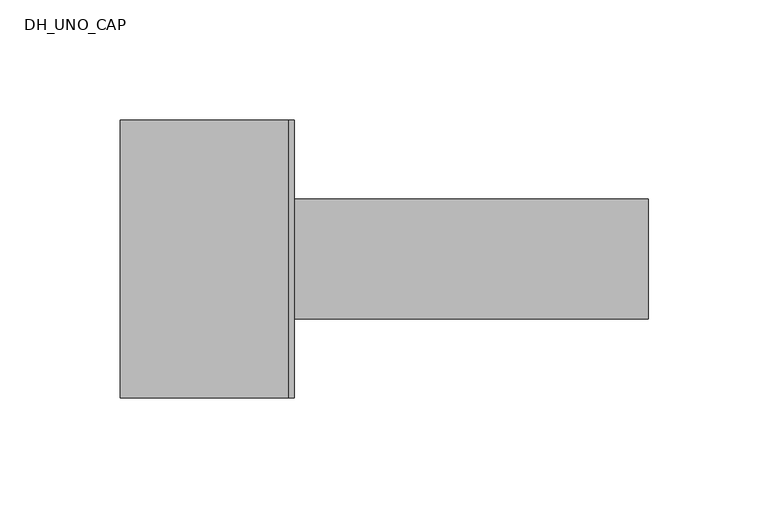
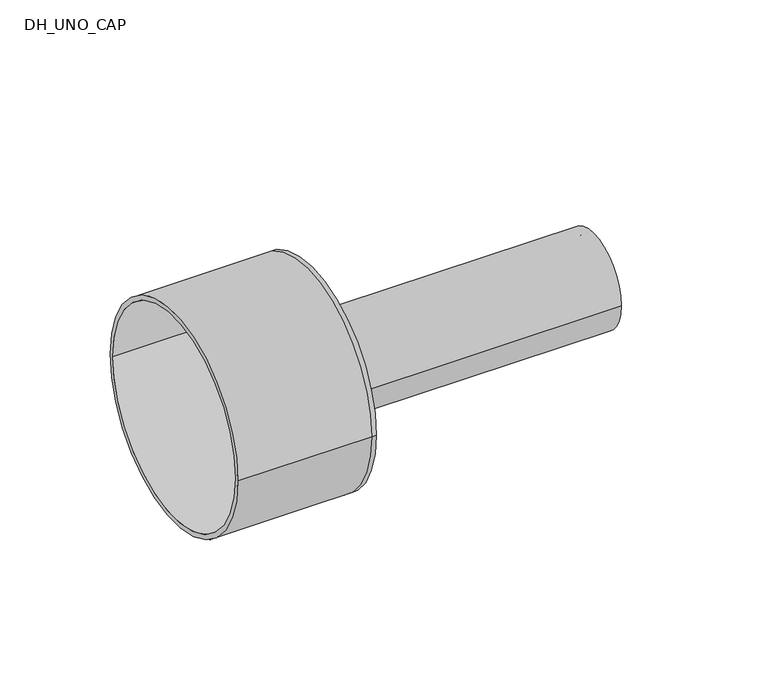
"""IFC4 building model written with IfcOpenShell, lengths in millimetres: pipe fitting geometry, DH_UNO_CAP : RAUTHERMEX UNO 11 Heating - Solid Cap."""

from ifc_helpers import new_model, si_unit, point, frame, origin, origin_2d, place, context, project, spatial, polyline, circle_curve, trimmed, segment, composite_curve, outline, extrude, source, transform, mapped, element, save
from ifc_brep_helpers import plane_surface, cylinder_surface, revolved_surface, advanced_brep


def dh_uno_cap_e8f4ea1d(model_context):
    return source(origin(), model_context, "Body", "SolidModel", [
        extrude(outline(composite_curve([segment(trimmed(circle_curve(origin_2d(), 25.0), [point((-25.0, 0.0))], [point((25.0, 0.0))], False, "CARTESIAN"), True, "CONTINUOUS"), segment(trimmed(circle_curve(origin_2d(), 25.0), [point((25.0, 0.0))], [point((-25.0, 0.0))], False, "CARTESIAN"), True, "CONTINUOUS")], self_intersect=False), holes=[composite_curve([segment(trimmed(circle_curve(origin_2d(), 20.4), [point((-20.4, 0.0))], [point((20.4, 0.0))], True, "CARTESIAN"), True, "CONTINUOUS"), segment(trimmed(circle_curve(origin_2d(), 20.4), [point((20.4, 0.0))], [point((-20.4, 0.0))], True, "CARTESIAN"), True, "CONTINUOUS")], self_intersect=False)]), frame((0.0, 0.0, 0.0), z_axis=(1.0, 0.0, 0.0), x_axis=(0.0, 1.0, 0.0)), (0.0, 0.0, 1.0), 150.0),
        advanced_brep(
        [(-70.0, -58.0, 0.0), (-70.0, 58.0, 0.0), (-70.0, -55.5, 0.0), (-70.0, 55.5, 0.0), (0.0, -55.5, 0.0), (0.0, 55.5, 0.0), (0.0, -58.0, 0.0), (0.0, 58.0, 0.0), (0.0, 25.0, 0.0), (0.0, -25.0, 0.0), (2.5, -58.0, 0.0), (2.5, 58.0, 0.0), (2.5, -25.0, 0.0), (2.5, 25.0, 0.0)],
        [
            (0, 1, circle_curve(frame((-70.0, 0.0, 0.0), z_axis=(-1.0, 0.0, 0.0), x_axis=(0.0, 1.0, 0.0)), 58.0)),
            (1, 0, circle_curve(frame((-70.0, 0.0, 0.0), z_axis=(-1.0, 0.0, 0.0), x_axis=(0.0, 1.0, 0.0)), 58.0)),
            (2, 3, circle_curve(frame((-70.0, 0.0, 0.0), z_axis=(1.0, 0.0, 0.0), x_axis=(0.0, 1.0, 0.0)), 55.5)),
            (3, 2, circle_curve(frame((-70.0, 0.0, 0.0), z_axis=(1.0, 0.0, 0.0), x_axis=(0.0, 1.0, 0.0)), 55.5)),
            (2, 4),
            (4, 5, circle_curve(frame((0.0, 0.0, 0.0), z_axis=(1.0, 0.0, 0.0), x_axis=(0.0, 1.0, 0.0)), 55.5)),
            (5, 3),
            (5, 4, circle_curve(frame((0.0, 0.0, 0.0), z_axis=(1.0, 0.0, 0.0), x_axis=(0.0, 1.0, 0.0)), 55.5)),
            (0, 6),
            (6, 7, circle_curve(frame((0.0, 0.0, 0.0), z_axis=(-1.0, 0.0, 0.0), x_axis=(0.0, 1.0, 0.0)), 58.0)),
            (7, 1),
            (7, 6, circle_curve(frame((0.0, 0.0, 0.0), z_axis=(-1.0, 0.0, 0.0), x_axis=(0.0, 1.0, 0.0)), 58.0)),
            (8, 9, circle_curve(frame((0.0, 0.0, 0.0), z_axis=(1.0, 0.0, 0.0), x_axis=(0.0, 1.0, 0.0)), 25.0)),
            (9, 8, circle_curve(frame((0.0, 0.0, 0.0), z_axis=(1.0, 0.0, 0.0), x_axis=(0.0, 1.0, 0.0)), 25.0)),
            (10, 11, circle_curve(frame((2.5, 0.0, 0.0), z_axis=(1.0, 0.0, 0.0), x_axis=(0.0, 1.0, 0.0)), 58.0)),
            (11, 10, circle_curve(frame((2.5, 0.0, 0.0), z_axis=(1.0, 0.0, 0.0), x_axis=(0.0, 1.0, 0.0)), 58.0)),
            (12, 13, circle_curve(frame((2.5, 0.0, 0.0), z_axis=(-1.0, 0.0, 0.0), x_axis=(0.0, 1.0, 0.0)), 25.0)),
            (13, 12, circle_curve(frame((2.5, 0.0, 0.0), z_axis=(-1.0, 0.0, 0.0), x_axis=(0.0, 1.0, 0.0)), 25.0)),
            (11, 7),
            (6, 10),
            (8, 13),
            (12, 9),
        ],
        [
            plane_surface(frame((-70.0, 0.0, 0.0), z_axis=(-1.0, 0.0, 0.0), x_axis=(0.0, 0.0, 1.0))),
            revolved_surface(polyline([(0.0, 55.5, 0.0), (-70.0, 55.5, 0.0)]), (-70.0, 0.0, 0.0), (1.0, 0.0, 0.0)),
            cylinder_surface(frame((-70.0, 0.0, 0.0), z_axis=(-1.0, 0.0, 0.0), x_axis=(0.0, 1.0, 0.0)), 58.0),
            plane_surface(frame((0.0, 0.0, 0.0), z_axis=(-1.0, 0.0, 0.0), x_axis=(0.0, 0.0, 1.0))),
            plane_surface(frame((2.5, 0.0, 0.0), z_axis=(1.0, 0.0, 0.0), x_axis=(0.0, 0.0, 1.0))),
            cylinder_surface(frame((0.0, 0.0, 0.0), z_axis=(-1.0, 0.0, 0.0), x_axis=(0.0, 1.0, 0.0)), 58.0),
            revolved_surface(polyline([(0.0, 25.0, 0.0), (2.5, 25.0, 0.0)]), (0.0, 0.0, 0.0), (-1.0, 0.0, 0.0)),
        ],
        [
            (0, [[1, 2], [3, 4]]),
            (1, [[-3, 5, 6, 7]]),
            (1, [[-4, -7, 8, -5]]),
            (2, [[-1, 9, 10, 11]]),
            (2, [[-2, -11, 12, -9]]),
            (3, [[-6, -8], [13, 14]]),
            (4, [[15, 16], [17, 18]]),
            (5, [[-16, 19, -10, 20]]),
            (5, [[-15, -20, -12, -19]]),
            (6, [[21, -17, 22, -13]]),
            (6, [[-21, -14, -22, -18]]),
        ],
    ),
    ])


if __name__ == "__main__":
    model = new_model("IFC4")
    model_context = context("Model", 3, world=origin())
    ifc_project = project(units=[si_unit("LENGTHUNIT", "METRE", prefix="MILLI")], contexts=[model_context])
    site = spatial("IfcSite", under=ifc_project)
    building = spatial("IfcBuilding", under=site)
    placement = place(None, origin())
    dh_uno_cap_shape = dh_uno_cap_e8f4ea1d(model_context)
    element("IfcPipeFitting", 1, ObjectType="DH_UNO_CAP : RAUTHERMEX UNO 11 Heating - Solid Cap", at=placement, inside=building, context=model_context, shape_type="MappedRepresentation", body=[
        mapped(dh_uno_cap_shape, transform((0.0, 0.0, 0.0), x_axis=(1.0, 0.0, 0.0), y_axis=(0.0, 1.0, 0.0), z_axis=(0.0, 0.0, 1.0))),
    ])
    save(model, "model.ifc")
